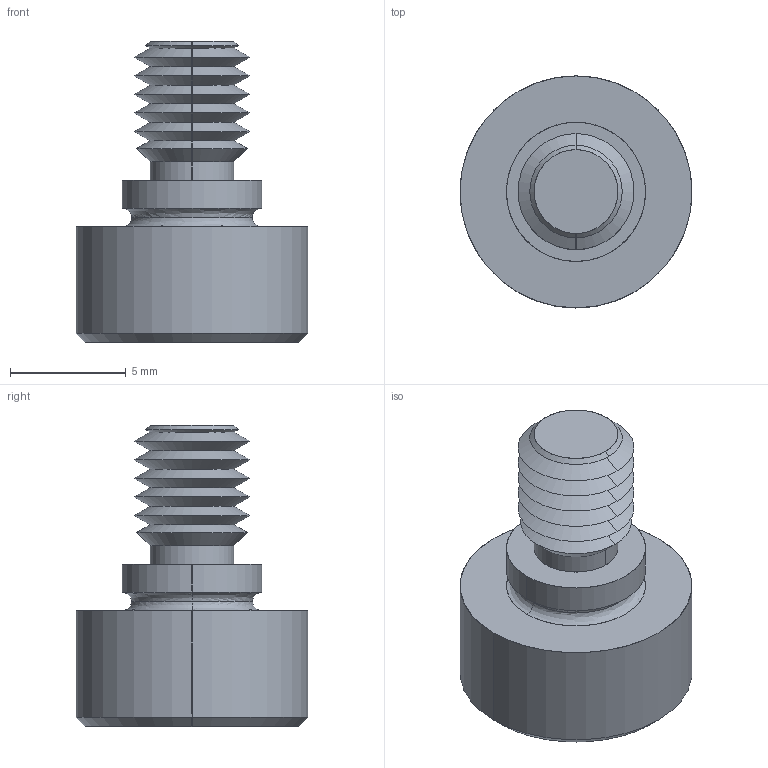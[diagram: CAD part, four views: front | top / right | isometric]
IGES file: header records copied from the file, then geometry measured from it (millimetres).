
Start section: SolidWorks IGES file using analytic representation for surfaces
Global section: file name: C:\Users\IanO\Documents\Temp Folder\GENERAL\SCREW REVISION\P0130_v2\P0130.T5_v2_20220106_IGES\P0130.060-002-T5.igs; native system: SolidWorks 2019; preprocessor: SolidWorks 2019; author: IanO; date: 220106.221939; units: millimetre
Bounding box: 10 x 10 x 13 mm (x, y, z)
Surface area: 525.3 mm2 (no closed solid volume)
Topology: 0 solids, 0 shells, 64 faces, 504 edges, 502 vertices
Faces by surface type: revolution 44, bspline 20
